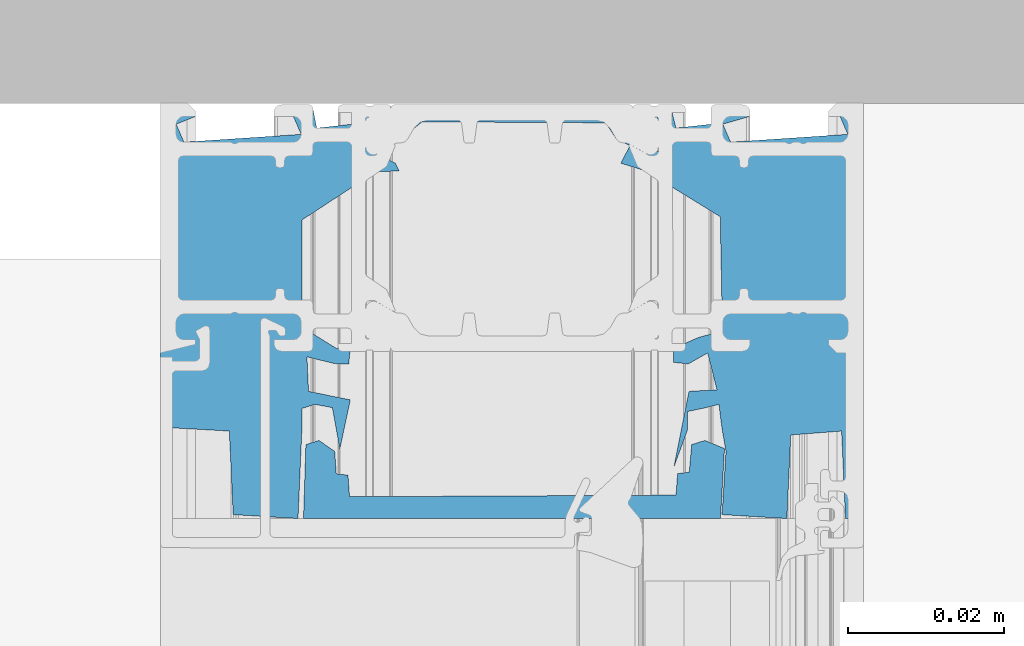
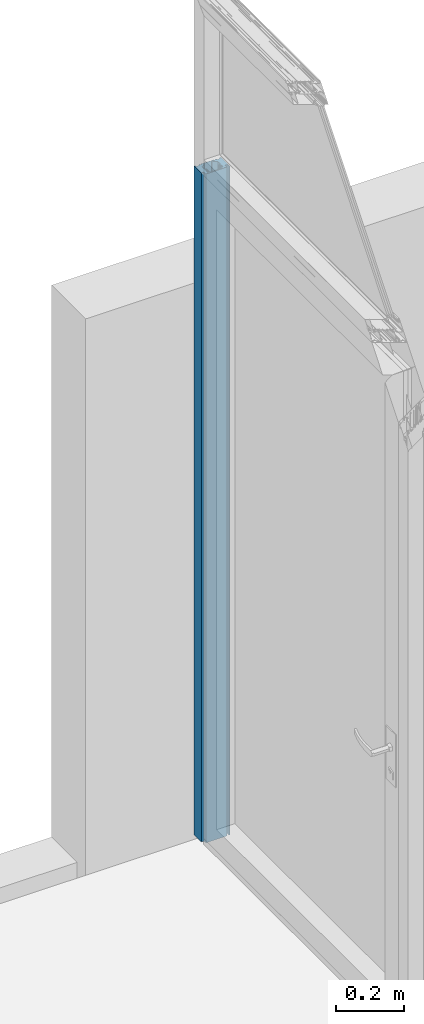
# One storey, part 8 of 387: 1 member, 1 element without a shape of its own.
"""IFC2X3 building model written with IfcOpenShell, lengths in millimetres."""

from ifc_helpers import new_model, entity, si_unit, converted_unit, derived_unit, money_unit, direction, frame, origin_with_axes, place, context, subcontext, project, spatial, polyline, outline, extrude, material, type_object, element, aggregate, save


model = new_model("IFC2X3")

# Units and contexts
model_context = context("Model", 3, precision=0.01, world=origin_with_axes(), true_north=direction((0.0, 1.0)))
body_context = subcontext(model_context, "Body", "Model", "MODEL_VIEW")
ifc_project = project(units=[si_unit("LENGTHUNIT", "METRE", prefix="MILLI"), si_unit("AREAUNIT", "SQUARE_METRE"), si_unit("VOLUMEUNIT", "CUBIC_METRE"), converted_unit("PLANEANGLEUNIT", "DEGREE", entity("IfcPlaneAngleMeasure", 0.0174532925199), si_unit("PLANEANGLEUNIT", "RADIAN"), dimensions=[0, 0, 0, 0, 0, 0, 0]), si_unit("SOLIDANGLEUNIT", "STERADIAN"), money_unit("EUR"), converted_unit("TIMEUNIT", "Year", entity("IfcTimeMeasure", 31556926.0), si_unit("TIMEUNIT", "SECOND"), dimensions=[0, 0, 1, 0, 0, 0, 0]), si_unit("MASSUNIT", "GRAM", prefix="KILO"), si_unit("THERMODYNAMICTEMPERATUREUNIT", "DEGREE_CELSIUS"), si_unit("LUMINOUSINTENSITYUNIT", "LUMEN"), si_unit("ENERGYUNIT", "JOULE", prefix="MEGA"), derived_unit("THERMALCONDUCTANCEUNIT", [(si_unit("POWERUNIT", "WATT"), 1), (si_unit("LENGTHUNIT", "METRE"), -1), (si_unit("THERMODYNAMICTEMPERATUREUNIT", "KELVIN"), -1)]), derived_unit("SPECIFICHEATCAPACITYUNIT", [(si_unit("ENERGYUNIT", "JOULE"), 1), (si_unit("MASSUNIT", "GRAM", prefix="KILO"), -1), (si_unit("THERMODYNAMICTEMPERATUREUNIT", "KELVIN"), -1)]), derived_unit("MASSDENSITYUNIT", [(si_unit("MASSUNIT", "GRAM", prefix="KILO"), 1), (si_unit("VOLUMEUNIT", "CUBIC_METRE"), -1)])], contexts=[model_context])

# Site, building, storey
site_placement = place(None, origin_with_axes())
site = spatial("IfcSite", under=ifc_project, at=site_placement, Name="Puškini 31, Narva", CompositionType="ELEMENT")
building_placement = place(site_placement, origin_with_axes())
building = spatial("IfcBuilding", under=site, at=building_placement, Name="Narva Riigigümnaasium", CompositionType="ELEMENT")
storey_placement = place(building_placement, frame((0.0, 0.0, 2640.0), z_axis=(0.0, 0.0, 1.0), x_axis=(1.0, 0.0, 0.0)))
storey = spatial("IfcBuildingStorey", under=building, at=storey_placement, Name="2.korrus +2.64", CompositionType="ELEMENT", Elevation=2640.0)

# Curtain wall, member
curtain_wall_type = type_object("IfcCurtainWallType", Name="Curtain Wall Type", PredefinedType="NOTDEFINED")
curtain_wall_placement = place(storey_placement, frame((28355.1508299, 194100.024463, 0.0), z_axis=(0.0, 0.0, 1.0), x_axis=(1.0, 0.0, 0.0)))
curtain_wall = element("IfcCurtainWall", 1, at=curtain_wall_placement, inside=storey, type_object=curtain_wall_type, Name="G-SKLF-25")
ifc_material = material(Name="ET-04_Alumiinium")
member_type = type_object("IfcMemberType", Name="53 x 45", PredefinedType="MULLION")
member_placement = place(curtain_wall_placement, frame((-0.0024603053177, 600.00206552, 0.0), z_axis=(0.0, 0.0, 1.0), x_axis=(4.10049474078e-06, -0.999999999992, 0.0)))
member = element("IfcMember", 2, at=member_placement, type_object=member_type, material=ifc_material, Name="G-SKLF-25-raam", ObjectType="MULLION", context=body_context, shape_type="SweptSolid", body=[
    extrude(outline(polyline([(-40.4999930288, -1.70016607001), (-41.5999999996, -0.00017058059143), (-44.9999999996, -0.000184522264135), (-44.9998298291, -41.5001845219), (-36.1998277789, -42.0001484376), (-35.6997839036, -52.7001463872), (-27.3997818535, -53.2001123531), (-26.8998287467, -41.7641103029), (-26.8998396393, -39.1077060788), (-25.2466354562, -38.5811961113), (-23.0016350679, -39.0000939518), (-22.5016237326, -41.7644509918), (-22.0016121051, -44.6000898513), (-22.5016045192, -46.4500919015), (-20.7016391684, -38.0000845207), (-26.0499119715, -36.9091988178), (-26.2498667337, -32.5001076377), (-22.6714021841, -33.373298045), (-20.8998630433, -33.4000857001), (-20.6998712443, -31.40008488), (-22.4998712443, -31.4000922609), (-25.399878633, -29.5981803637), (-26.497959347, -28.500108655), (-26.8998892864, -27.0001103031), (-26.899938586, -14.9772648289), (-17.419543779, -8.77604738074), (-14.4499643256, -8.70005925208), (-14.9499684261, -7.70006130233), (-17.2399733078, -6.50954510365), (-18.7399905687, -2.30007684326), (-15.84999266, -1.79006499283), (-21.6999991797, -0.200088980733), (-20.4999950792, -1.20008406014), (-20.4999889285, -2.70008406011), (-24.9999868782, -3.20010251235), (-25.4999971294, -0.700104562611), (-29.4999991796, -0.200120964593), (-27.9999930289, -1.70011481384), (-26.9999835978, -4.00011071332), (-41.9999794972, -5.00017222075), (-42.9999889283, -2.70017632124), (-40.4999930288, -1.70016607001)])), frame((0.0, 0.0, 0.0), z_axis=(0.0, 0.0, 1.0), x_axis=(4.10049474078e-06, 0.999999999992, 0.0)), (0.0, 0.0, 1.0), 2400.00002459),
    extrude(outline(polyline([(-11.5049484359, -2.400047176), (12.0049686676, -2.53392536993), (13.3524980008, -4.5999452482), (17.2400266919, -6.50940371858), (18.740009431, -2.2999231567), (15.8400073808, -1.79993504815), (-15.0399991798, -0.20006167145), (-18.2399926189, -1.80007479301), (-18.7399768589, -5.64352585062), (-15.1571578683, -5.31856669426), (-11.5049484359, -2.400047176)])), frame((0.0, 0.0, 0.0), z_axis=(0.0, 0.0, 1.0), x_axis=(4.10049474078e-06, 0.999999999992, 0.0)), (0.0, 0.0, 1.0), 2400.00002459),
    extrude(outline(polyline([(27.2131959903, -44.2348802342), (24.7001715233, -43.1998987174), (23.0049545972, -43.7247829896), (22.7001825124, -47.2499069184), (21.2001833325, -47.4499130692), (21.0001946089, -50.1999138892), (-20.7997820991, -50.4000852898), (-20.9997933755, -47.6500861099), (-22.4997941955, -47.4500922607), (-22.6998058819, -44.6000930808), (-24.6998172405, -43.2001012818), (-26.3950341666, -43.724985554), (-26.6997818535, -53.2001094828), (26.7002181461, -53.1998905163), (27.2131959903, -44.2348802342)])), frame((0.0, 0.0, 0.0), z_axis=(0.0, 0.0, 1.0), x_axis=(4.10049474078e-06, 0.999999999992, 0.0)), (0.0, 0.0, 1.0), 2400.00002459),
    extrude(outline(polyline([(44.9999999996, 0.000184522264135), (41.5999999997, 0.00017058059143), (40.5000045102, -1.09983392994), (42.0000069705, -1.69982777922), (43.0000164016, -3.9998236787), (28.0000205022, -4.99988518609), (27.0000110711, -2.69988928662), (30.5000069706, -1.6998749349), (26.0000008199, -0.199893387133), (25.5000110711, -2.69989543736), (21.0000131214, -3.19991388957), (20.5000049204, -1.19991593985), (22.2000049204, -1.199908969), (15.85000082, -0.199935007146), (18.5500073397, -1.7899239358), (18.7500254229, -6.19992311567), (15.1572014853, -5.3184423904), (13.9500315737, -7.69994279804), (17.154655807, -8.6999296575), (26.6650193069, -14.553021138), (26.9001107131, -26.9998896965), (26.4981930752, -28.4998913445), (25.4001213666, -29.5979720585), (23.9001230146, -29.9999019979), (20.7001287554, -31.3999151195), (20.7001361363, -33.1999151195), (22.5716759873, -33.3999074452), (25.0501312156, -31.9998972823), (26.2501505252, -36.7089843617), (22.6658748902, -36.908999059), (20.701923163, -46.6999147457), (22.5019029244, -41.764266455), (22.5018936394, -39.4999073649), (24.840216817, -38.9998977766), (26.4939794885, -38.5795184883), (26.9001712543, -41.7642487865), (27.4001828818, -44.5998876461), (26.9002160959, -52.6998896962), (35.200218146, -53.1998556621), (35.7001742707, -42.499853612), (42.2001722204, -41.9998269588), (42.700218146, -53.1998249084), (45.000218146, -53.1998154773), (44.9999999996, 0.000184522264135)])), frame((0.0, 0.0, 0.0), z_axis=(0.0, 0.0, 1.0), x_axis=(4.10049474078e-06, 0.999999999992, 0.0)), (0.0, 0.0, 1.0), 2400.00002459),
])
aggregate(curtain_wall, [member])

save(model, "model.ifc")
